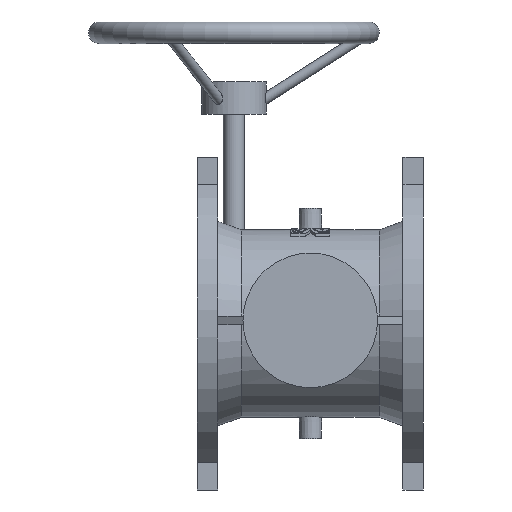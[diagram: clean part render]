
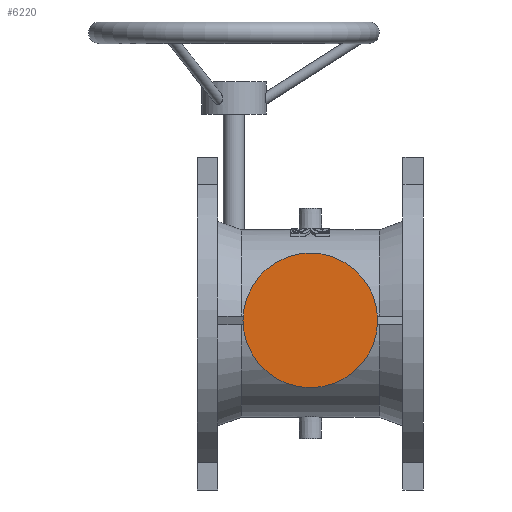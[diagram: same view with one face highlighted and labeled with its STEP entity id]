
A CAD part, front view. The second image highlights one B-rep face of the part: STEP entity #6220.
In plain terms, the highlighted planar face has unit normal (0, -1, 0).
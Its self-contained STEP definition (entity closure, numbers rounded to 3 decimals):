
#52 = AXIS2_PLACEMENT_3D ( 'NONE', #3781, #3782, #3783 ) ;
#307 = EDGE_CURVE ( 'NONE', #1207, #1207, #2431, .T. ) ;
#1007 = FACE_OUTER_BOUND ( 'NONE', #5086, .T. ) ;
#1207 = VERTEX_POINT ( 'NONE', #3278 ) ;
#1611 = ORIENTED_EDGE ( 'NONE', *, *, #307, .F. ) ;
#2431 = CIRCLE ( 'NONE', #52, 62.5 ) ;
#2988 = CARTESIAN_POINT ( 'NONE',  ( 0., -192., 0. ) ) ;
#2992 = PLANE ( 'NONE',  #5313 ) ;
#2994 = DIRECTION ( 'NONE',  ( 0., 1., 0. ) ) ;
#2995 = DIRECTION ( 'NONE',  ( 0., 0., 1. ) ) ;
#3278 = CARTESIAN_POINT ( 'NONE',  ( 0., -192., 62.5 ) ) ;
#3781 = CARTESIAN_POINT ( 'NONE',  ( 0., -192., 0. ) ) ;
#3782 = DIRECTION ( 'NONE',  ( 0., 1., 0. ) ) ;
#3783 = DIRECTION ( 'NONE',  ( 0., 0., 1. ) ) ;
#5086 = EDGE_LOOP ( 'NONE', ( #1611 ) ) ;
#5313 = AXIS2_PLACEMENT_3D ( 'NONE', #2988, #2994, #2995 ) ;
#6220 = ADVANCED_FACE ( 'NONE', ( #1007 ), #2992, .F. ) ;
